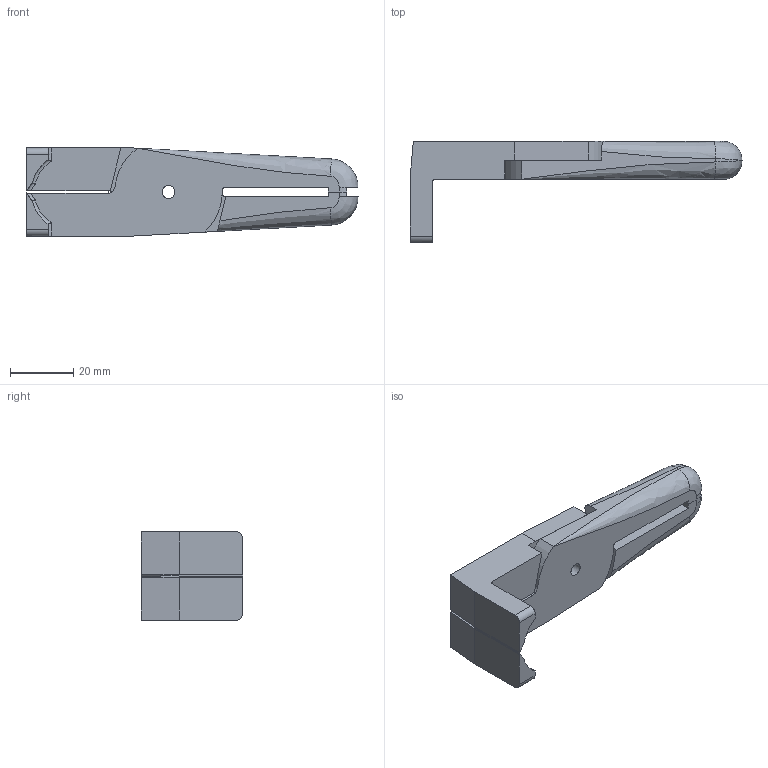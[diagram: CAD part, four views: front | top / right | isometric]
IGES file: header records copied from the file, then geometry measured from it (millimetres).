
Global section: file name: N20AL; native system: unknown; preprocessor: unknown; author: unknown; organization: unknown; date: 20210409.133013; units: millimetre
Bounding box: 105.14 x 32 x 28 mm (x, y, z)
Volume: 30257.2 mm3; surface area: 12883.8 mm2
Topology: 2 solids, 2 shells, 76 faces, 204 edges, 130 vertices
Faces by surface type: bspline 76
